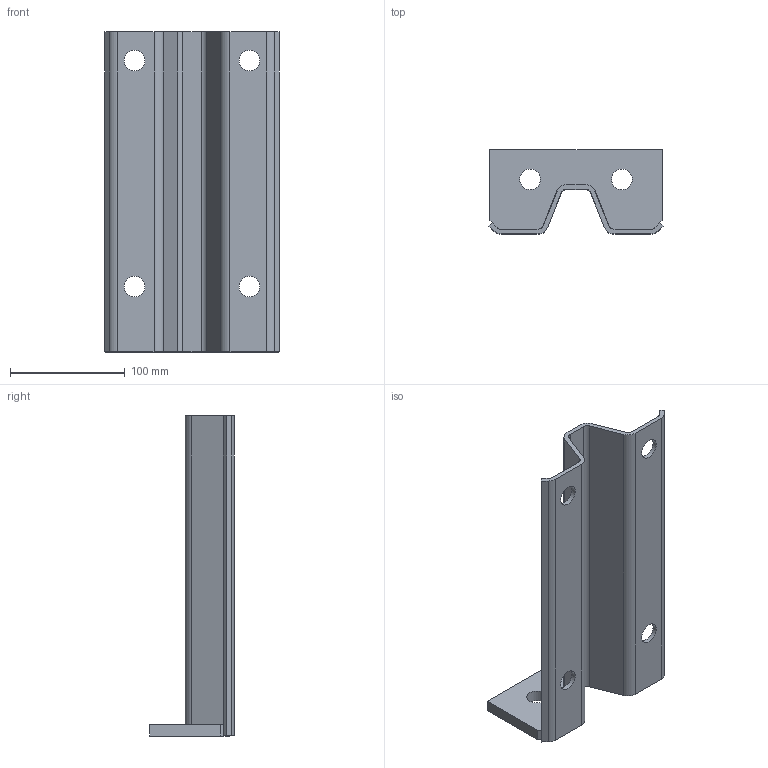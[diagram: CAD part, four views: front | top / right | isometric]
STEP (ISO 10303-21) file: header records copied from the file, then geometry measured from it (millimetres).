
FILE_DESCRIPTION(/* description */ (''),/* implementation_level */ '2;1');
FILE_NAME(/* name */ 'ZB300W80.stp',/* time_stamp */ '2023-07-03T11:19:49+02:00',/* author */ ('woriedl'),/* organization */ (''),/* preprocessor_version */ 'ST-DEVELOPER v19.2',/* originating_system */ 'AutoCAD Mechanical',/* authorisation */ '');
FILE_SCHEMA (('AUTOMOTIVE_DESIGN { 1 0 10303 214 3 1 1 }'));
Length unit declared in the file: centimetre
Products named in the file (1): Product
Bounding box: 151.72 x 74 x 279 mm (x, y, z)
Volume: 302453.7 mm3; surface area: 135998.6 mm2
Topology: 1 solids, 1 shells, 54 faces, 162 edges, 106 vertices
Faces by surface type: plane 30, cylinder 24
Full cylindrical faces by diameter (mm): 18 x6
Entity records: 1881 total; most frequent: ORIENTED_EDGE 324, CARTESIAN_POINT 323, DIRECTION 320, EDGE_CURVE 162, LINE 114, VECTOR 114, VERTEX_POINT 106, AXIS2_PLACEMENT_3D 103
